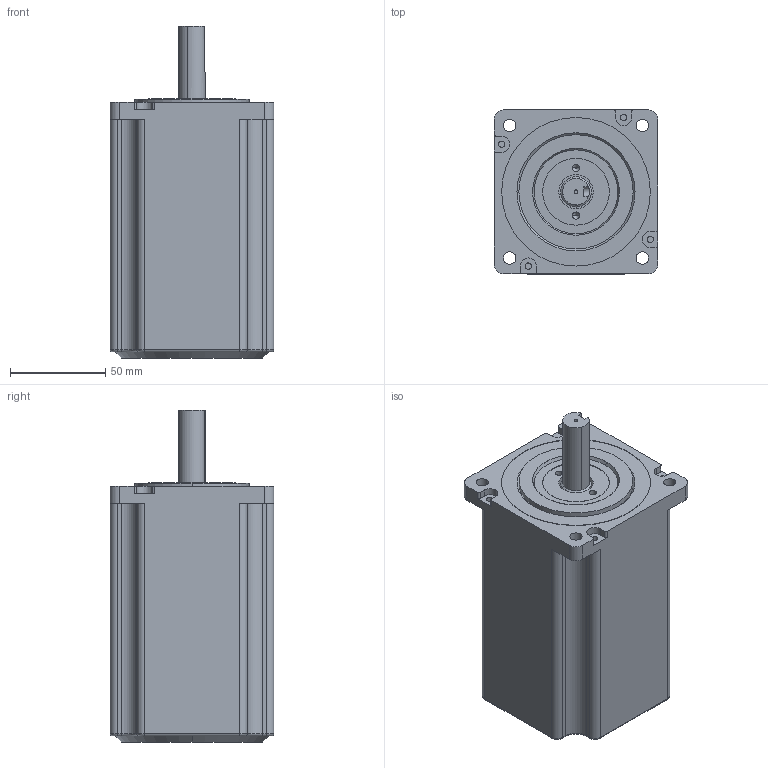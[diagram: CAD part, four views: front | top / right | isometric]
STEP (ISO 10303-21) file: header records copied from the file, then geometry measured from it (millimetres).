
FILE_DESCRIPTION((''),'2;1');
FILE_NAME('ABCD0E94C2B2YBNB_1_1','2021-11-17T09:42:11',('qingl'),(''),'CREO PARAMETRIC BY PTC INC, 2019224','CREO PARAMETRIC BY PTC INC, 2019224','');
FILE_SCHEMA(('CONFIG_CONTROL_DESIGN'));
Length unit declared in the file: millimetre
Products named in the file (1): ABCD0E94C2B2YBNB_1_1
Bounding box: 86 x 86 x 174.3 mm (x, y, z)
Volume: 896201 mm3; surface area: 61079.6 mm2
Topology: 1 solids, 1 shells, 304 faces, 828 edges, 544 vertices
Faces by surface type: cylinder 221, plane 51, torus 12, cone 12, bspline 8
Entity records: 14299 total; most frequent: CARTESIAN_POINT 6968, ORIENTED_EDGE 1656, DIRECTION 1335, EDGE_CURVE 828, VERTEX_POINT 544, AXIS2_PLACEMENT_3D 509, EDGE_LOOP 330, VECTOR 317
